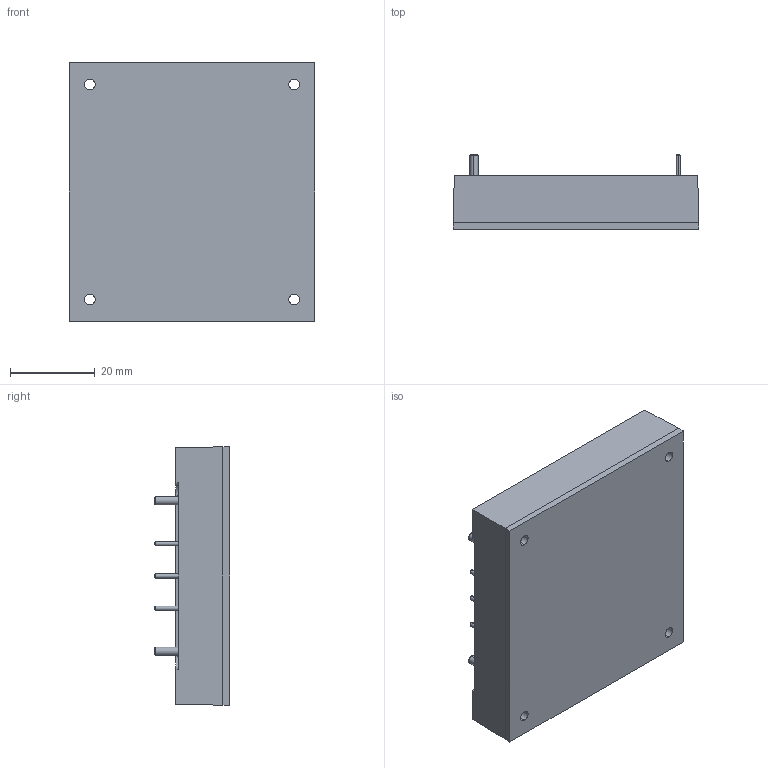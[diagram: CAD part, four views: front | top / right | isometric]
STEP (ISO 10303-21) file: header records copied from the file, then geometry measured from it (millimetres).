
FILE_DESCRIPTION (( 'STEP AP214' ), '1' );
FILE_NAME ('TEP 75 72 PCB-mount.STEP', '2022-05-09T06:26:46', ( '' ), ( '' ), 'SwSTEP 2.0', 'SolidWorks 2016', '' );
FILE_SCHEMA (( 'AUTOMOTIVE_DESIGN' ));
Length unit declared in the file: millimetre
Products named in the file (1): TEP 75 72 PCB-mount
Bounding box: 57.9 x 17.78 x 61 mm (x, y, z)
Volume: 44077.2 mm3; surface area: 10595 mm2
Topology: 1 solids, 1 shells, 87 faces, 194 edges, 122 vertices
Faces by surface type: cylinder 38, plane 31, cone 18
Entity records: 2762 total; most frequent: DIRECTION 464, CARTESIAN_POINT 404, ORIENTED_EDGE 388, EDGE_CURVE 194, AXIS2_PLACEMENT_3D 182, VERTEX_POINT 122, EDGE_LOOP 108, VECTOR 100
